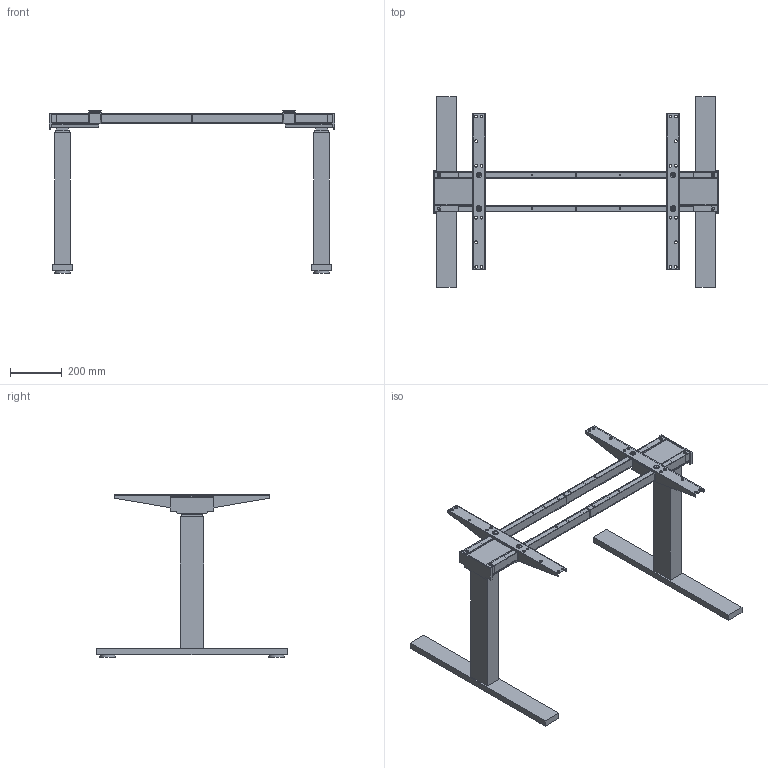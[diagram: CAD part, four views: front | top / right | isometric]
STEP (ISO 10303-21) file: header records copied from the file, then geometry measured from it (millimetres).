
FILE_DESCRIPTION( ( 'STEP AP214' ), '1' );
FILE_NAME( 'D:/Yug/2022/Actiforce_2022/QC/9309760.stp', '2022-03-02T07:47:37', ( '' ), ( '' ), ' ', 'PARTsolutions', ' ' );
FILE_SCHEMA( ( 'AUTOMOTIVE_DESIGN { 1 0 10303 214 1 1 1 1 }' ) );
Length unit declared in the file: millimetre
Products named in the file (7): 9309760(W1100XH528.9); _metal_foot_sf_670_1100_528.9; _column_sf_670_528.9; _9309760_12; _top_support_sf_570; _crossbar_sf_570; _cover_cap_sf_670
Assembly tree (12 placements, depth 2):
  9309760(W1100XH528.9)
    _metal_foot_sf_670_1100_528.9  x2
    _column_sf_670_528.9  x2
    _9309760_12  x2
    _top_support_sf_570  x2
    _crossbar_sf_570  x2
    _cover_cap_sf_670  x2
Bounding box: 1100 x 736 x 625 mm (x, y, z)
Volume: 11753139.7 mm3; surface area: 1938429.3 mm2
Topology: 12 solids, 12 shells, 398 faces, 982 edges, 656 vertices
Faces by surface type: plane 284, cylinder 114
Full cylindrical faces by diameter (mm): 6.5 x14, 6.8 x8, 9 x4, 10 x16, 10.5 x20, 12 x8, 12.7 x4, 13.46 x8, 17.06 x8, 17.4 x8, 22 x4, 59.84 x4
Entity records: 7476 total; most frequent: DIRECTION 972, CARTESIAN_POINT 970, ORIENTED_EDGE 868, EDGE_CURVE 434, EDGE_LOOP 348, AXIS2_PLACEMENT_3D 326, VERTEX_POINT 324, LINE 320
